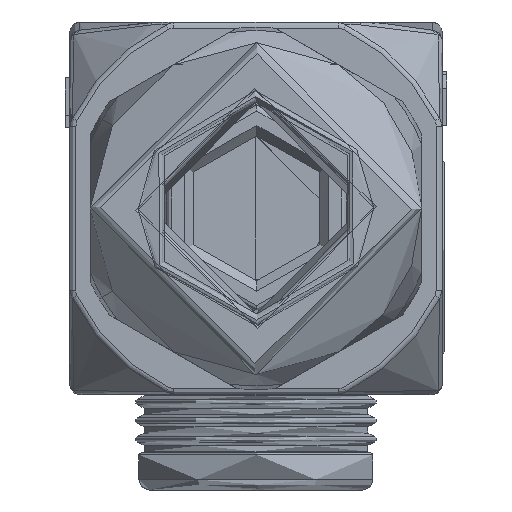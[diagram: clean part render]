
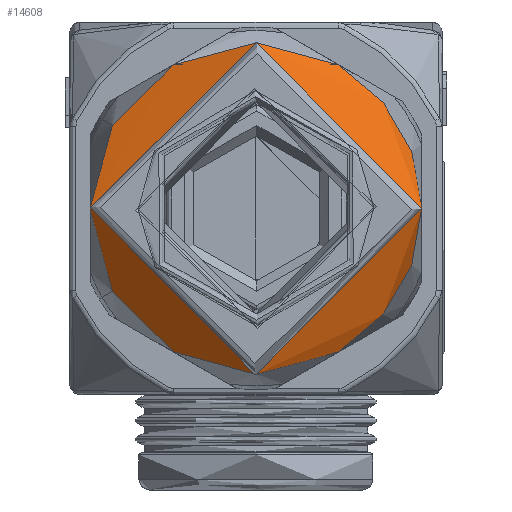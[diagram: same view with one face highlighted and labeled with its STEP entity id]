
A CAD part, front view. The second image highlights one B-rep face of the part: STEP entity #14608.
In plain terms, the highlighted cylindrical face has radius 8 mm (diameter 16 mm), a full revolution.
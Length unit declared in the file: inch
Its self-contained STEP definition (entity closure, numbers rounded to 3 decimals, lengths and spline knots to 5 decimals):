
#208=CYLINDRICAL_SURFACE('',#15469,0.31496);
#337=LINE('',#28765,#1856);
#1856=VECTOR('',#16853,0.31496);
#3383=CIRCLE('',#15467,0.31496);
#3384=CIRCLE('',#15468,0.31496);
#3385=CIRCLE('',#15470,0.31496);
#3386=CIRCLE('',#15471,0.31496);
#3986=FACE_OUTER_BOUND('',#4780,.T.);
#4780=EDGE_LOOP('',(#10190,#10191,#10192,#10193,#10194,#10195,#10196,#10197,
#10198,#10199,#10200,#10201,#10202));
#5693=B_SPLINE_CURVE_WITH_KNOTS('',3,(#28767,#28768,#28769,#28770,#28771,
#28772),.UNSPECIFIED.,.F.,.F.,(4,2,4),(2.01068,2.10945,
2.41079),.UNSPECIFIED.);
#5694=B_SPLINE_CURVE_WITH_KNOTS('',3,(#28778,#28779,#28780,#28781,#28782,
#28783,#28784,#28785,#28786,#28787,#28788),.UNSPECIFIED.,.F.,.F.,(4,2,3,
2,4),(4.42147,4.52024,4.82159,5.12294,
5.22171),.UNSPECIFIED.);
#5695=B_SPLINE_CURVE_WITH_KNOTS('',3,(#28790,#28791,#28792,#28793,#28794,
#28795),.UNSPECIFIED.,.F.,.F.,(4,2,4),(4.01603,4.21889,
4.42147),.UNSPECIFIED.);
#5696=B_SPLINE_CURVE_WITH_KNOTS('',3,(#28797,#28798,#28799,#28800,#28801,
#28802),.UNSPECIFIED.,.F.,.F.,(4,2,4),(3.61619,3.91754,
4.01603),.UNSPECIFIED.);
#5697=B_SPLINE_CURVE_WITH_KNOTS('',3,(#28804,#28805,#28806,#28807,#28808,
#28809),.UNSPECIFIED.,.F.,.F.,(4,2,4),(3.21635,3.31484,
3.61619),.UNSPECIFIED.);
#5698=B_SPLINE_CURVE_WITH_KNOTS('',3,(#28811,#28812,#28813,#28814,#28815,
#28816),.UNSPECIFIED.,.F.,.F.,(4,2,4),(2.81091,3.01349,
3.21635),.UNSPECIFIED.);
#5699=B_SPLINE_CURVE_WITH_KNOTS('',3,(#28817,#28818,#28819,#28820,#28821,
#28822),.UNSPECIFIED.,.F.,.F.,(4,2,4),(2.41079,2.71214,
2.81091),.UNSPECIFIED.);
#6008=VERTEX_POINT('',#28758);
#6009=VERTEX_POINT('',#28760);
#6010=VERTEX_POINT('',#28764);
#6011=VERTEX_POINT('',#28766);
#6012=VERTEX_POINT('',#28773);
#6013=VERTEX_POINT('',#28775);
#6014=VERTEX_POINT('',#28777);
#6015=VERTEX_POINT('',#28789);
#6016=VERTEX_POINT('',#28796);
#6017=VERTEX_POINT('',#28803);
#6018=VERTEX_POINT('',#28810);
#7623=EDGE_CURVE('',#6008,#6009,#3383,.T.);
#7624=EDGE_CURVE('',#6009,#6008,#3384,.T.);
#7625=EDGE_CURVE('',#6009,#6010,#337,.T.);
#7626=EDGE_CURVE('',#6011,#6010,#5693,.T.);
#7627=EDGE_CURVE('',#6011,#6012,#3385,.T.);
#7628=EDGE_CURVE('',#6012,#6013,#3386,.T.);
#7629=EDGE_CURVE('',#6014,#6013,#5694,.T.);
#7630=EDGE_CURVE('',#6015,#6014,#5695,.T.);
#7631=EDGE_CURVE('',#6016,#6015,#5696,.T.);
#7632=EDGE_CURVE('',#6017,#6016,#5697,.T.);
#7633=EDGE_CURVE('',#6018,#6017,#5698,.T.);
#7634=EDGE_CURVE('',#6010,#6018,#5699,.T.);
#10190=ORIENTED_EDGE('',*,*,#7624,.F.);
#10191=ORIENTED_EDGE('',*,*,#7625,.T.);
#10192=ORIENTED_EDGE('',*,*,#7626,.F.);
#10193=ORIENTED_EDGE('',*,*,#7627,.T.);
#10194=ORIENTED_EDGE('',*,*,#7628,.T.);
#10195=ORIENTED_EDGE('',*,*,#7629,.F.);
#10196=ORIENTED_EDGE('',*,*,#7630,.F.);
#10197=ORIENTED_EDGE('',*,*,#7631,.F.);
#10198=ORIENTED_EDGE('',*,*,#7632,.F.);
#10199=ORIENTED_EDGE('',*,*,#7633,.F.);
#10200=ORIENTED_EDGE('',*,*,#7634,.F.);
#10201=ORIENTED_EDGE('',*,*,#7625,.F.);
#10202=ORIENTED_EDGE('',*,*,#7623,.F.);
#14608=ADVANCED_FACE('',(#3986),#208,.T.);
#15467=AXIS2_PLACEMENT_3D('',#28761,#16847,#16848);
#15468=AXIS2_PLACEMENT_3D('',#28762,#16849,#16850);
#15469=AXIS2_PLACEMENT_3D('',#28763,#16851,#16852);
#15470=AXIS2_PLACEMENT_3D('',#28774,#16854,#16855);
#15471=AXIS2_PLACEMENT_3D('',#28776,#16856,#16857);
#16847=DIRECTION('center_axis',(0.,-1.,0.));
#16848=DIRECTION('ref_axis',(0.,0.,1.));
#16849=DIRECTION('center_axis',(0.,-1.,0.));
#16850=DIRECTION('ref_axis',(0.,0.,1.));
#16851=DIRECTION('center_axis',(0.,-1.,0.));
#16852=DIRECTION('ref_axis',(0.,0.,1.));
#16853=DIRECTION('',(0.,1.,0.));
#16854=DIRECTION('center_axis',(0.,-1.,0.));
#16855=DIRECTION('ref_axis',(0.5,0.,-0.866));
#16856=DIRECTION('center_axis',(0.,-1.,0.));
#16857=DIRECTION('ref_axis',(1.,0.,0.));
#28758=CARTESIAN_POINT('',(-0.00213,-1.75591,0.19686));
#28760=CARTESIAN_POINT('',(0.,-1.75591,0.19685));
#28761=CARTESIAN_POINT('Origin',(0.,-1.75591,0.51181));
#28762=CARTESIAN_POINT('Origin',(0.,-1.75591,0.51181));
#28763=CARTESIAN_POINT('Origin',(0.,-1.77559,0.51181));
#28764=CARTESIAN_POINT('',(0.,-1.69685,0.19685));
#28765=CARTESIAN_POINT('',(0.,-1.77559,0.19685));
#28766=CARTESIAN_POINT('',(0.15748,-1.69685,0.23905));
#28767=CARTESIAN_POINT('Ctrl Pts',(0.15748,-1.69685,
0.23905));
#28768=CARTESIAN_POINT('Ctrl Pts',(0.14562,-1.69685,
0.2322));
#28769=CARTESIAN_POINT('Ctrl Pts',(0.13325,-1.69685,0.22609));
#28770=CARTESIAN_POINT('Ctrl Pts',(0.08173,-1.69685,
0.20475));
#28771=CARTESIAN_POINT('Ctrl Pts',(0.03955,-1.69685,
0.19685));
#28772=CARTESIAN_POINT('Ctrl Pts',(0.,-1.69685,
0.19685));
#28773=CARTESIAN_POINT('',(0.31496,-1.69685,0.51181));
#28774=CARTESIAN_POINT('Origin',(0.,-1.69685,0.51181));
#28775=CARTESIAN_POINT('',(0.15748,-1.69685,0.78457));
#28776=CARTESIAN_POINT('Origin',(0.,-1.69685,0.51181));
#28777=CARTESIAN_POINT('',(-0.15748,-1.69685,0.78457));
#28778=CARTESIAN_POINT('Ctrl Pts',(-0.15748,-1.69685,
0.78457));
#28779=CARTESIAN_POINT('Ctrl Pts',(-0.14562,-1.69685,
0.79142));
#28780=CARTESIAN_POINT('Ctrl Pts',(-0.13325,-1.69685,
0.79753));
#28781=CARTESIAN_POINT('Ctrl Pts',(-0.08173,-1.69685,
0.81887));
#28782=CARTESIAN_POINT('Ctrl Pts',(-0.03955,-1.69685,
0.82677));
#28783=CARTESIAN_POINT('Ctrl Pts',(0.,-1.69685,
0.82677));
#28784=CARTESIAN_POINT('Ctrl Pts',(0.03955,-1.69685,
0.82677));
#28785=CARTESIAN_POINT('Ctrl Pts',(0.08173,-1.69685,
0.81887));
#28786=CARTESIAN_POINT('Ctrl Pts',(0.13325,-1.69685,0.79753));
#28787=CARTESIAN_POINT('Ctrl Pts',(0.14562,-1.69685,
0.79142));
#28788=CARTESIAN_POINT('Ctrl Pts',(0.15748,-1.69685,
0.78457));
#28789=CARTESIAN_POINT('',(-0.27282,-1.69685,0.66919));
#28790=CARTESIAN_POINT('Ctrl Pts',(-0.27282,-1.69686,
0.66919));
#28791=CARTESIAN_POINT('Ctrl Pts',(-0.25877,-1.69685,
0.69355));
#28792=CARTESIAN_POINT('Ctrl Pts',(-0.24154,-1.69685,
0.7157));
#28793=CARTESIAN_POINT('Ctrl Pts',(-0.20391,-1.69686,
0.75332));
#28794=CARTESIAN_POINT('Ctrl Pts',(-0.1818,-1.69686,
0.77053));
#28795=CARTESIAN_POINT('Ctrl Pts',(-0.15748,-1.69687,
0.78457));
#28796=CARTESIAN_POINT('',(-0.31496,-1.69684,0.51181));
#28797=CARTESIAN_POINT('Ctrl Pts',(-0.31496,-1.69684,0.51181));
#28798=CARTESIAN_POINT('Ctrl Pts',(-0.31496,-1.69685,
0.55136));
#28799=CARTESIAN_POINT('Ctrl Pts',(-0.30706,-1.69685,
0.59354));
#28800=CARTESIAN_POINT('Ctrl Pts',(-0.28573,-1.69686,
0.64502));
#28801=CARTESIAN_POINT('Ctrl Pts',(-0.27964,-1.69686,
0.65736));
#28802=CARTESIAN_POINT('Ctrl Pts',(-0.27282,-1.69685,
0.66919));
#28803=CARTESIAN_POINT('',(-0.27282,-1.69686,0.35443));
#28804=CARTESIAN_POINT('Ctrl Pts',(-0.27282,-1.69686,
0.35443));
#28805=CARTESIAN_POINT('Ctrl Pts',(-0.27965,-1.69686,
0.36626));
#28806=CARTESIAN_POINT('Ctrl Pts',(-0.28573,-1.69686,
0.3786));
#28807=CARTESIAN_POINT('Ctrl Pts',(-0.30706,-1.69685,
0.43008));
#28808=CARTESIAN_POINT('Ctrl Pts',(-0.31496,-1.69685,0.47226));
#28809=CARTESIAN_POINT('Ctrl Pts',(-0.31496,-1.69684,0.51181));
#28810=CARTESIAN_POINT('',(-0.15748,-1.69685,0.23905));
#28811=CARTESIAN_POINT('Ctrl Pts',(-0.15748,-1.69687,
0.23905));
#28812=CARTESIAN_POINT('Ctrl Pts',(-0.1818,-1.69686,0.25309));
#28813=CARTESIAN_POINT('Ctrl Pts',(-0.20391,-1.69686,
0.2703));
#28814=CARTESIAN_POINT('Ctrl Pts',(-0.24154,-1.69685,
0.30792));
#28815=CARTESIAN_POINT('Ctrl Pts',(-0.25877,-1.69685,0.33007));
#28816=CARTESIAN_POINT('Ctrl Pts',(-0.27282,-1.69686,
0.35443));
#28817=CARTESIAN_POINT('Ctrl Pts',(0.,-1.69685,
0.19685));
#28818=CARTESIAN_POINT('Ctrl Pts',(-0.03955,-1.69685,
0.19685));
#28819=CARTESIAN_POINT('Ctrl Pts',(-0.08173,-1.69685,
0.20475));
#28820=CARTESIAN_POINT('Ctrl Pts',(-0.13325,-1.69685,
0.22609));
#28821=CARTESIAN_POINT('Ctrl Pts',(-0.14562,-1.69685,
0.2322));
#28822=CARTESIAN_POINT('Ctrl Pts',(-0.15748,-1.69685,
0.23905));
